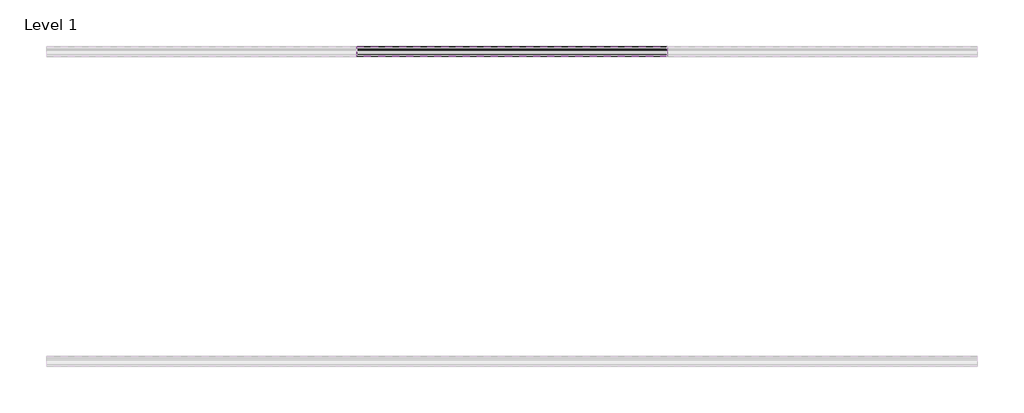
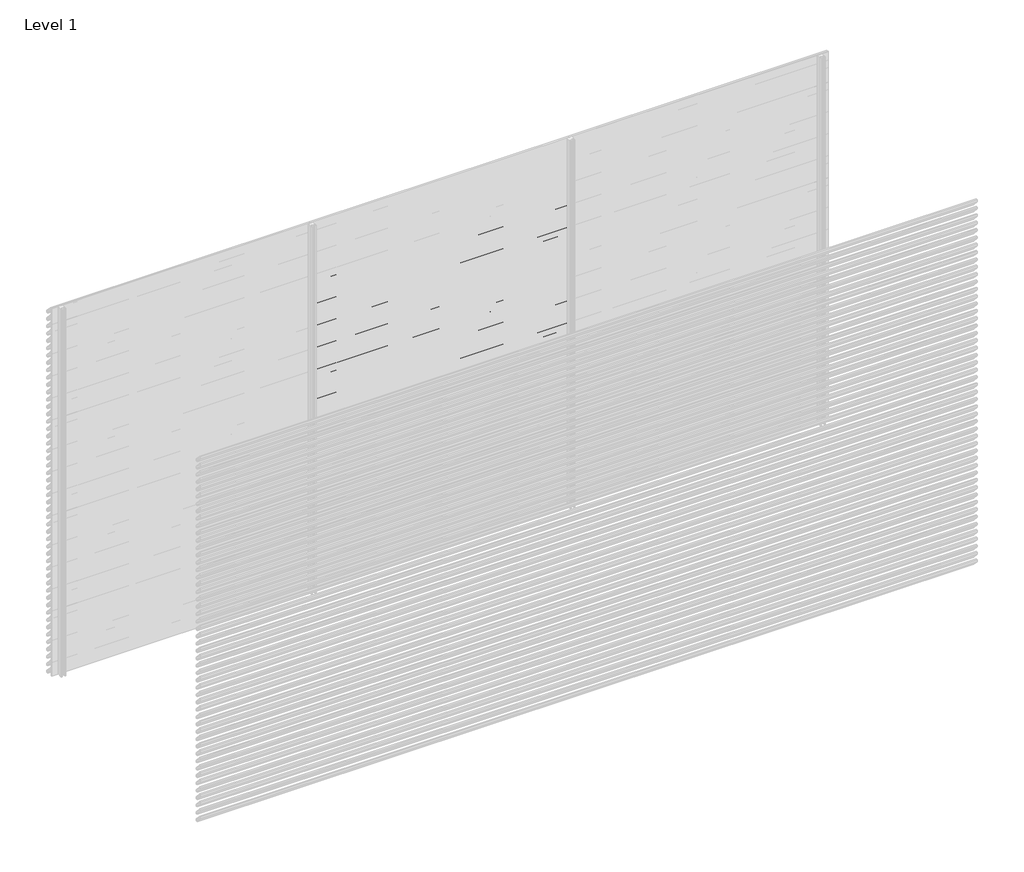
# One storey, part 116 of 153: 33 proxies.
"""IFC4 building model written with IfcOpenShell, lengths in millimetres."""

from ifc_helpers import new_model, si_unit, point, frame, frame_2d, origin, place, context, project, spatial, polyline, circle_curve, trimmed, segment, composite_curve, outline, extrude, element, save

model = new_model("IFC4")

# Units and contexts
model_context = context("Model", 3, world=origin())
ifc_project = project(units=[si_unit("LENGTHUNIT", "METRE", prefix="MILLI")], contexts=[model_context])

# Site, building, storey
site = spatial("IfcSite", under=ifc_project)
building = spatial("IfcBuilding", under=site)
storey = spatial("IfcBuildingStorey", under=building, Name="Level 1", Elevation=0.0)

# Proxies
placement = place(None, origin())
element("IfcBuildingElementProxy", 1, Name="Wall Sweeps", at=placement, inside=storey, context=model_context, shape_type="SweptSolid", body=[
    extrude(outline(composite_curve([segment(polyline([(58985.0540136, 2520.0), (58999.874191, 2518.7034025), (59049.0540136, 2465.0102749), (59049.0540136, 2453.6108187)]), True, "CONTINUOUS"), segment(trimmed(circle_curve(frame_2d((59045.7883652, 2453.897153)), 3.2781774), [point((59049.0540136, 2453.6108187))], [point((59046.4639442, 2450.6893438))], False, "CARTESIAN"), True, "CONTINUOUS"), segment(polyline([(59046.4639442, 2450.6893438), (59034.1895723, 2451.6282758), (58985.0540136, 2505.2730773), (58985.0540136, 2520.0)]), True, "CONTINUOUS")], self_intersect=False), holes=[composite_curve([segment(polyline([(58999.1621773, 2517.2599659), (58986.5540136, 2518.3630372), (58986.5540136, 2505.856213), (59034.8952036, 2453.0786805), (59046.3312542, 2452.2038762)]), True, "CONTINUOUS"), segment(trimmed(circle_curve(frame_2d((59045.7883652, 2453.897153)), 1.7781774), [point((59046.3312542, 2452.2038762))], [point((59047.5540136, 2453.6864389))], True, "CARTESIAN"), True, "CONTINUOUS"), segment(polyline([(59047.5540136, 2453.6864389), (59047.5540136, 2464.4271392), (58999.1621773, 2517.2599659)]), True, "CONTINUOUS")], self_intersect=False)]), frame((46966.6208098, 0.0, 0.0), z_axis=(1.0, 0.0, 0.0), x_axis=(0.0, 1.0, 0.0)), (0.0, 0.0, 1.0), 1999.9999998),
])
element("IfcBuildingElementProxy", 2, Name="Wall Sweeps", at=placement, inside=storey, context=model_context, shape_type="SweptSolid", body=[
    extrude(outline(composite_curve([segment(polyline([(58985.0540136, 2460.0), (58999.874191, 2458.7034025), (59049.0540136, 2405.0102749), (59049.0540136, 2393.6108187)]), True, "CONTINUOUS"), segment(trimmed(circle_curve(frame_2d((59045.7883652, 2393.897153)), 3.2781774), [point((59049.0540136, 2393.6108187))], [point((59046.4639442, 2390.6893438))], False, "CARTESIAN"), True, "CONTINUOUS"), segment(polyline([(59046.4639442, 2390.6893438), (59034.1895723, 2391.6282758), (58985.0540136, 2445.2730773), (58985.0540136, 2460.0)]), True, "CONTINUOUS")], self_intersect=False), holes=[composite_curve([segment(polyline([(58999.1621773, 2457.2599659), (58986.5540136, 2458.3630372), (58986.5540136, 2445.856213), (59034.8952036, 2393.0786805), (59046.3312542, 2392.2038762)]), True, "CONTINUOUS"), segment(trimmed(circle_curve(frame_2d((59045.7883652, 2393.897153)), 1.7781774), [point((59046.3312542, 2392.2038762))], [point((59047.5540136, 2393.6864389))], True, "CARTESIAN"), True, "CONTINUOUS"), segment(polyline([(59047.5540136, 2393.6864389), (59047.5540136, 2404.4271392), (58999.1621773, 2457.2599659)]), True, "CONTINUOUS")], self_intersect=False)]), frame((46966.6208098, 0.0, 0.0), z_axis=(1.0, 0.0, 0.0), x_axis=(0.0, 1.0, 0.0)), (0.0, 0.0, 1.0), 1999.9999998),
])
element("IfcBuildingElementProxy", 3, Name="Wall Sweeps", at=placement, inside=storey, context=model_context, shape_type="SweptSolid", body=[
    extrude(outline(composite_curve([segment(polyline([(58985.0540136, 2400.0), (58999.874191, 2398.7034025), (59049.0540136, 2345.0102749), (59049.0540136, 2333.6108187)]), True, "CONTINUOUS"), segment(trimmed(circle_curve(frame_2d((59045.7883652, 2333.897153)), 3.2781774), [point((59049.0540136, 2333.6108187))], [point((59046.4639442, 2330.6893438))], False, "CARTESIAN"), True, "CONTINUOUS"), segment(polyline([(59046.4639442, 2330.6893438), (59034.1895723, 2331.6282758), (58985.0540136, 2385.2730773), (58985.0540136, 2400.0)]), True, "CONTINUOUS")], self_intersect=False), holes=[composite_curve([segment(polyline([(58999.1621773, 2397.2599659), (58986.5540136, 2398.3630372), (58986.5540136, 2385.856213), (59034.8952036, 2333.0786805), (59046.3312542, 2332.2038762)]), True, "CONTINUOUS"), segment(trimmed(circle_curve(frame_2d((59045.7883652, 2333.897153)), 1.7781774), [point((59046.3312542, 2332.2038762))], [point((59047.5540136, 2333.6864389))], True, "CARTESIAN"), True, "CONTINUOUS"), segment(polyline([(59047.5540136, 2333.6864389), (59047.5540136, 2344.4271392), (58999.1621773, 2397.2599659)]), True, "CONTINUOUS")], self_intersect=False)]), frame((46966.6208098, 0.0, 0.0), z_axis=(1.0, 0.0, 0.0), x_axis=(0.0, 1.0, 0.0)), (0.0, 0.0, 1.0), 1999.9999998),
])
element("IfcBuildingElementProxy", 4, Name="Wall Sweeps", at=placement, inside=storey, context=model_context, shape_type="SweptSolid", body=[
    extrude(outline(composite_curve([segment(polyline([(58985.0540136, 2340.0), (58999.874191, 2338.7034025), (59049.0540136, 2285.0102749), (59049.0540136, 2273.6108187)]), True, "CONTINUOUS"), segment(trimmed(circle_curve(frame_2d((59045.7883652, 2273.897153)), 3.2781774), [point((59049.0540136, 2273.6108187))], [point((59046.4639442, 2270.6893438))], False, "CARTESIAN"), True, "CONTINUOUS"), segment(polyline([(59046.4639442, 2270.6893438), (59034.1895723, 2271.6282758), (58985.0540136, 2325.2730773), (58985.0540136, 2340.0)]), True, "CONTINUOUS")], self_intersect=False), holes=[composite_curve([segment(polyline([(58999.1621773, 2337.2599659), (58986.5540136, 2338.3630372), (58986.5540136, 2325.856213), (59034.8952036, 2273.0786805), (59046.3312542, 2272.2038762)]), True, "CONTINUOUS"), segment(trimmed(circle_curve(frame_2d((59045.7883652, 2273.897153)), 1.7781774), [point((59046.3312542, 2272.2038762))], [point((59047.5540136, 2273.6864389))], True, "CARTESIAN"), True, "CONTINUOUS"), segment(polyline([(59047.5540136, 2273.6864389), (59047.5540136, 2284.4271392), (58999.1621773, 2337.2599659)]), True, "CONTINUOUS")], self_intersect=False)]), frame((46966.6208098, 0.0, 0.0), z_axis=(1.0, 0.0, 0.0), x_axis=(0.0, 1.0, 0.0)), (0.0, 0.0, 1.0), 1999.9999998),
])
element("IfcBuildingElementProxy", 5, Name="Wall Sweeps", at=placement, inside=storey, context=model_context, shape_type="SweptSolid", body=[
    extrude(outline(composite_curve([segment(polyline([(58985.0540136, 2280.0), (58999.874191, 2278.7034025), (59049.0540136, 2225.0102749), (59049.0540136, 2213.6108187)]), True, "CONTINUOUS"), segment(trimmed(circle_curve(frame_2d((59045.7883652, 2213.897153)), 3.2781774), [point((59049.0540136, 2213.6108187))], [point((59046.4639442, 2210.6893438))], False, "CARTESIAN"), True, "CONTINUOUS"), segment(polyline([(59046.4639442, 2210.6893438), (59034.1895723, 2211.6282758), (58985.0540136, 2265.2730773), (58985.0540136, 2280.0)]), True, "CONTINUOUS")], self_intersect=False), holes=[composite_curve([segment(polyline([(58999.1621773, 2277.2599659), (58986.5540136, 2278.3630372), (58986.5540136, 2265.856213), (59034.8952036, 2213.0786805), (59046.3312542, 2212.2038762)]), True, "CONTINUOUS"), segment(trimmed(circle_curve(frame_2d((59045.7883652, 2213.897153)), 1.7781774), [point((59046.3312542, 2212.2038762))], [point((59047.5540136, 2213.6864389))], True, "CARTESIAN"), True, "CONTINUOUS"), segment(polyline([(59047.5540136, 2213.6864389), (59047.5540136, 2224.4271392), (58999.1621773, 2277.2599659)]), True, "CONTINUOUS")], self_intersect=False)]), frame((46966.6208098, 0.0, 0.0), z_axis=(1.0, 0.0, 0.0), x_axis=(0.0, 1.0, 0.0)), (0.0, 0.0, 1.0), 1999.9999998),
])
element("IfcBuildingElementProxy", 6, Name="Wall Sweeps", at=placement, inside=storey, context=model_context, shape_type="SweptSolid", body=[
    extrude(outline(composite_curve([segment(polyline([(58985.0540136, 2220.0), (58999.874191, 2218.7034025), (59049.0540136, 2165.0102749), (59049.0540136, 2153.6108187)]), True, "CONTINUOUS"), segment(trimmed(circle_curve(frame_2d((59045.7883652, 2153.897153)), 3.2781774), [point((59049.0540136, 2153.6108187))], [point((59046.4639442, 2150.6893438))], False, "CARTESIAN"), True, "CONTINUOUS"), segment(polyline([(59046.4639442, 2150.6893438), (59034.1895723, 2151.6282758), (58985.0540136, 2205.2730773), (58985.0540136, 2220.0)]), True, "CONTINUOUS")], self_intersect=False), holes=[composite_curve([segment(polyline([(58999.1621773, 2217.2599659), (58986.5540136, 2218.3630372), (58986.5540136, 2205.856213), (59034.8952036, 2153.0786805), (59046.3312542, 2152.2038762)]), True, "CONTINUOUS"), segment(trimmed(circle_curve(frame_2d((59045.7883652, 2153.897153)), 1.7781774), [point((59046.3312542, 2152.2038762))], [point((59047.5540136, 2153.6864389))], True, "CARTESIAN"), True, "CONTINUOUS"), segment(polyline([(59047.5540136, 2153.6864389), (59047.5540136, 2164.4271392), (58999.1621773, 2217.2599659)]), True, "CONTINUOUS")], self_intersect=False)]), frame((46966.6208098, 0.0, 0.0), z_axis=(1.0, 0.0, 0.0), x_axis=(0.0, 1.0, 0.0)), (0.0, 0.0, 1.0), 1999.9999998),
])
element("IfcBuildingElementProxy", 7, Name="Wall Sweeps", at=placement, inside=storey, context=model_context, shape_type="SweptSolid", body=[
    extrude(outline(composite_curve([segment(polyline([(58985.0540136, 2160.0), (58999.874191, 2158.7034025), (59049.0540136, 2105.0102749), (59049.0540136, 2093.6108187)]), True, "CONTINUOUS"), segment(trimmed(circle_curve(frame_2d((59045.7883652, 2093.897153)), 3.2781774), [point((59049.0540136, 2093.6108187))], [point((59046.4639442, 2090.6893438))], False, "CARTESIAN"), True, "CONTINUOUS"), segment(polyline([(59046.4639442, 2090.6893438), (59034.1895723, 2091.6282758), (58985.0540136, 2145.2730773), (58985.0540136, 2160.0)]), True, "CONTINUOUS")], self_intersect=False), holes=[composite_curve([segment(polyline([(58999.1621773, 2157.2599659), (58986.5540136, 2158.3630372), (58986.5540136, 2145.856213), (59034.8952036, 2093.0786805), (59046.3312542, 2092.2038762)]), True, "CONTINUOUS"), segment(trimmed(circle_curve(frame_2d((59045.7883652, 2093.897153)), 1.7781774), [point((59046.3312542, 2092.2038762))], [point((59047.5540136, 2093.6864389))], True, "CARTESIAN"), True, "CONTINUOUS"), segment(polyline([(59047.5540136, 2093.6864389), (59047.5540136, 2104.4271392), (58999.1621773, 2157.2599659)]), True, "CONTINUOUS")], self_intersect=False)]), frame((46966.6208098, 0.0, 0.0), z_axis=(1.0, 0.0, 0.0), x_axis=(0.0, 1.0, 0.0)), (0.0, 0.0, 1.0), 1999.9999998),
])
element("IfcBuildingElementProxy", 8, Name="Wall Sweeps", at=placement, inside=storey, context=model_context, shape_type="SweptSolid", body=[
    extrude(outline(composite_curve([segment(polyline([(58985.0540136, 2100.0), (58999.874191, 2098.7034025), (59049.0540136, 2045.0102749), (59049.0540136, 2033.6108187)]), True, "CONTINUOUS"), segment(trimmed(circle_curve(frame_2d((59045.7883652, 2033.897153)), 3.2781774), [point((59049.0540136, 2033.6108187))], [point((59046.4639442, 2030.6893438))], False, "CARTESIAN"), True, "CONTINUOUS"), segment(polyline([(59046.4639442, 2030.6893438), (59034.1895723, 2031.6282758), (58985.0540136, 2085.2730773), (58985.0540136, 2100.0)]), True, "CONTINUOUS")], self_intersect=False), holes=[composite_curve([segment(polyline([(58999.1621773, 2097.2599659), (58986.5540136, 2098.3630372), (58986.5540136, 2085.856213), (59034.8952036, 2033.0786805), (59046.3312542, 2032.2038762)]), True, "CONTINUOUS"), segment(trimmed(circle_curve(frame_2d((59045.7883652, 2033.897153)), 1.7781774), [point((59046.3312542, 2032.2038762))], [point((59047.5540136, 2033.6864389))], True, "CARTESIAN"), True, "CONTINUOUS"), segment(polyline([(59047.5540136, 2033.6864389), (59047.5540136, 2044.4271392), (58999.1621773, 2097.2599659)]), True, "CONTINUOUS")], self_intersect=False)]), frame((46966.6208098, 0.0, 0.0), z_axis=(1.0, 0.0, 0.0), x_axis=(0.0, 1.0, 0.0)), (0.0, 0.0, 1.0), 1999.9999998),
])
element("IfcBuildingElementProxy", 9, Name="Wall Sweeps", at=placement, inside=storey, context=model_context, shape_type="SweptSolid", body=[
    extrude(outline(composite_curve([segment(polyline([(58985.0540136, 2040.0), (58999.874191, 2038.7034025), (59049.0540136, 1985.0102749), (59049.0540136, 1973.6108187)]), True, "CONTINUOUS"), segment(trimmed(circle_curve(frame_2d((59045.7883652, 1973.897153)), 3.2781774), [point((59049.0540136, 1973.6108187))], [point((59046.4639442, 1970.6893438))], False, "CARTESIAN"), True, "CONTINUOUS"), segment(polyline([(59046.4639442, 1970.6893438), (59034.1895723, 1971.6282758), (58985.0540136, 2025.2730773), (58985.0540136, 2040.0)]), True, "CONTINUOUS")], self_intersect=False), holes=[composite_curve([segment(polyline([(58999.1621773, 2037.2599659), (58986.5540136, 2038.3630372), (58986.5540136, 2025.856213), (59034.8952036, 1973.0786805), (59046.3312542, 1972.2038762)]), True, "CONTINUOUS"), segment(trimmed(circle_curve(frame_2d((59045.7883652, 1973.897153)), 1.7781774), [point((59046.3312542, 1972.2038762))], [point((59047.5540136, 1973.6864389))], True, "CARTESIAN"), True, "CONTINUOUS"), segment(polyline([(59047.5540136, 1973.6864389), (59047.5540136, 1984.4271392), (58999.1621773, 2037.2599659)]), True, "CONTINUOUS")], self_intersect=False)]), frame((46966.6208098, 0.0, 0.0), z_axis=(1.0, 0.0, 0.0), x_axis=(0.0, 1.0, 0.0)), (0.0, 0.0, 1.0), 1999.9999998),
])
element("IfcBuildingElementProxy", 10, Name="Wall Sweeps", at=placement, inside=storey, context=model_context, shape_type="SweptSolid", body=[
    extrude(outline(composite_curve([segment(polyline([(58985.0540136, 1980.0), (58999.874191, 1978.7034025), (59049.0540136, 1925.0102749), (59049.0540136, 1913.6108187)]), True, "CONTINUOUS"), segment(trimmed(circle_curve(frame_2d((59045.7883652, 1913.897153)), 3.2781774), [point((59049.0540136, 1913.6108187))], [point((59046.4639442, 1910.6893438))], False, "CARTESIAN"), True, "CONTINUOUS"), segment(polyline([(59046.4639442, 1910.6893438), (59034.1895723, 1911.6282758), (58985.0540136, 1965.2730773), (58985.0540136, 1980.0)]), True, "CONTINUOUS")], self_intersect=False), holes=[composite_curve([segment(polyline([(58999.1621773, 1977.2599659), (58986.5540136, 1978.3630372), (58986.5540136, 1965.856213), (59034.8952036, 1913.0786805), (59046.3312542, 1912.2038762)]), True, "CONTINUOUS"), segment(trimmed(circle_curve(frame_2d((59045.7883652, 1913.897153)), 1.7781774), [point((59046.3312542, 1912.2038762))], [point((59047.5540136, 1913.6864389))], True, "CARTESIAN"), True, "CONTINUOUS"), segment(polyline([(59047.5540136, 1913.6864389), (59047.5540136, 1924.4271392), (58999.1621773, 1977.2599659)]), True, "CONTINUOUS")], self_intersect=False)]), frame((46966.6208098, 0.0, 0.0), z_axis=(1.0, 0.0, 0.0), x_axis=(0.0, 1.0, 0.0)), (0.0, 0.0, 1.0), 1999.9999998),
])
element("IfcBuildingElementProxy", 11, Name="Wall Sweeps", at=placement, inside=storey, context=model_context, shape_type="SweptSolid", body=[
    extrude(outline(composite_curve([segment(polyline([(58985.0540136, 1920.0), (58999.874191, 1918.7034025), (59049.0540136, 1865.0102749), (59049.0540136, 1853.6108187)]), True, "CONTINUOUS"), segment(trimmed(circle_curve(frame_2d((59045.7883652, 1853.897153)), 3.2781774), [point((59049.0540136, 1853.6108187))], [point((59046.4639442, 1850.6893438))], False, "CARTESIAN"), True, "CONTINUOUS"), segment(polyline([(59046.4639442, 1850.6893438), (59034.1895723, 1851.6282758), (58985.0540136, 1905.2730773), (58985.0540136, 1920.0)]), True, "CONTINUOUS")], self_intersect=False), holes=[composite_curve([segment(polyline([(58999.1621773, 1917.2599659), (58986.5540136, 1918.3630372), (58986.5540136, 1905.856213), (59034.8952036, 1853.0786805), (59046.3312542, 1852.2038762)]), True, "CONTINUOUS"), segment(trimmed(circle_curve(frame_2d((59045.7883652, 1853.897153)), 1.7781774), [point((59046.3312542, 1852.2038762))], [point((59047.5540136, 1853.6864389))], True, "CARTESIAN"), True, "CONTINUOUS"), segment(polyline([(59047.5540136, 1853.6864389), (59047.5540136, 1864.4271392), (58999.1621773, 1917.2599659)]), True, "CONTINUOUS")], self_intersect=False)]), frame((46966.6208098, 0.0, 0.0), z_axis=(1.0, 0.0, 0.0), x_axis=(0.0, 1.0, 0.0)), (0.0, 0.0, 1.0), 1999.9999998),
])
element("IfcBuildingElementProxy", 12, Name="Wall Sweeps", at=placement, inside=storey, context=model_context, shape_type="SweptSolid", body=[
    extrude(outline(composite_curve([segment(polyline([(58985.0540136, 1860.0), (58999.874191, 1858.7034025), (59049.0540136, 1805.0102749), (59049.0540136, 1793.6108187)]), True, "CONTINUOUS"), segment(trimmed(circle_curve(frame_2d((59045.7883652, 1793.897153)), 3.2781774), [point((59049.0540136, 1793.6108187))], [point((59046.4639442, 1790.6893438))], False, "CARTESIAN"), True, "CONTINUOUS"), segment(polyline([(59046.4639442, 1790.6893438), (59034.1895723, 1791.6282758), (58985.0540136, 1845.2730773), (58985.0540136, 1860.0)]), True, "CONTINUOUS")], self_intersect=False), holes=[composite_curve([segment(polyline([(58999.1621773, 1857.2599659), (58986.5540136, 1858.3630372), (58986.5540136, 1845.856213), (59034.8952036, 1793.0786805), (59046.3312542, 1792.2038762)]), True, "CONTINUOUS"), segment(trimmed(circle_curve(frame_2d((59045.7883652, 1793.897153)), 1.7781774), [point((59046.3312542, 1792.2038762))], [point((59047.5540136, 1793.6864389))], True, "CARTESIAN"), True, "CONTINUOUS"), segment(polyline([(59047.5540136, 1793.6864389), (59047.5540136, 1804.4271392), (58999.1621773, 1857.2599659)]), True, "CONTINUOUS")], self_intersect=False)]), frame((46966.6208098, 0.0, 0.0), z_axis=(1.0, 0.0, 0.0), x_axis=(0.0, 1.0, 0.0)), (0.0, 0.0, 1.0), 1999.9999998),
])
element("IfcBuildingElementProxy", 13, Name="Wall Sweeps", at=placement, inside=storey, context=model_context, shape_type="SweptSolid", body=[
    extrude(outline(composite_curve([segment(polyline([(58985.0540136, 1800.0), (58999.874191, 1798.7034025), (59049.0540136, 1745.0102749), (59049.0540136, 1733.6108187)]), True, "CONTINUOUS"), segment(trimmed(circle_curve(frame_2d((59045.7883652, 1733.897153)), 3.2781774), [point((59049.0540136, 1733.6108187))], [point((59046.4639442, 1730.6893438))], False, "CARTESIAN"), True, "CONTINUOUS"), segment(polyline([(59046.4639442, 1730.6893438), (59034.1895723, 1731.6282758), (58985.0540136, 1785.2730773), (58985.0540136, 1800.0)]), True, "CONTINUOUS")], self_intersect=False), holes=[composite_curve([segment(polyline([(58999.1621773, 1797.2599659), (58986.5540136, 1798.3630372), (58986.5540136, 1785.856213), (59034.8952036, 1733.0786805), (59046.3312542, 1732.2038762)]), True, "CONTINUOUS"), segment(trimmed(circle_curve(frame_2d((59045.7883652, 1733.897153)), 1.7781774), [point((59046.3312542, 1732.2038762))], [point((59047.5540136, 1733.6864389))], True, "CARTESIAN"), True, "CONTINUOUS"), segment(polyline([(59047.5540136, 1733.6864389), (59047.5540136, 1744.4271392), (58999.1621773, 1797.2599659)]), True, "CONTINUOUS")], self_intersect=False)]), frame((46966.6208098, 0.0, 0.0), z_axis=(1.0, 0.0, 0.0), x_axis=(0.0, 1.0, 0.0)), (0.0, 0.0, 1.0), 1999.9999998),
])
element("IfcBuildingElementProxy", 14, Name="Wall Sweeps", at=placement, inside=storey, context=model_context, shape_type="SweptSolid", body=[
    extrude(outline(composite_curve([segment(polyline([(58985.0540136, 1740.0), (58999.874191, 1738.7034025), (59049.0540136, 1685.0102749), (59049.0540136, 1673.6108187)]), True, "CONTINUOUS"), segment(trimmed(circle_curve(frame_2d((59045.7883652, 1673.897153)), 3.2781774), [point((59049.0540136, 1673.6108187))], [point((59046.4639442, 1670.6893438))], False, "CARTESIAN"), True, "CONTINUOUS"), segment(polyline([(59046.4639442, 1670.6893438), (59034.1895723, 1671.6282758), (58985.0540136, 1725.2730773), (58985.0540136, 1740.0)]), True, "CONTINUOUS")], self_intersect=False), holes=[composite_curve([segment(polyline([(58999.1621773, 1737.2599659), (58986.5540136, 1738.3630372), (58986.5540136, 1725.856213), (59034.8952036, 1673.0786805), (59046.3312542, 1672.2038762)]), True, "CONTINUOUS"), segment(trimmed(circle_curve(frame_2d((59045.7883652, 1673.897153)), 1.7781774), [point((59046.3312542, 1672.2038762))], [point((59047.5540136, 1673.6864389))], True, "CARTESIAN"), True, "CONTINUOUS"), segment(polyline([(59047.5540136, 1673.6864389), (59047.5540136, 1684.4271392), (58999.1621773, 1737.2599659)]), True, "CONTINUOUS")], self_intersect=False)]), frame((46966.6208098, 0.0, 0.0), z_axis=(1.0, 0.0, 0.0), x_axis=(0.0, 1.0, 0.0)), (0.0, 0.0, 1.0), 1999.9999998),
])
element("IfcBuildingElementProxy", 15, Name="Wall Sweeps", at=placement, inside=storey, context=model_context, shape_type="SweptSolid", body=[
    extrude(outline(composite_curve([segment(polyline([(58985.0540136, 1680.0), (58999.874191, 1678.7034025), (59049.0540136, 1625.0102749), (59049.0540136, 1613.6108187)]), True, "CONTINUOUS"), segment(trimmed(circle_curve(frame_2d((59045.7883652, 1613.897153)), 3.2781774), [point((59049.0540136, 1613.6108187))], [point((59046.4639442, 1610.6893438))], False, "CARTESIAN"), True, "CONTINUOUS"), segment(polyline([(59046.4639442, 1610.6893438), (59034.1895723, 1611.6282758), (58985.0540136, 1665.2730773), (58985.0540136, 1680.0)]), True, "CONTINUOUS")], self_intersect=False), holes=[composite_curve([segment(polyline([(58999.1621773, 1677.2599659), (58986.5540136, 1678.3630372), (58986.5540136, 1665.856213), (59034.8952036, 1613.0786805), (59046.3312542, 1612.2038762)]), True, "CONTINUOUS"), segment(trimmed(circle_curve(frame_2d((59045.7883652, 1613.897153)), 1.7781774), [point((59046.3312542, 1612.2038762))], [point((59047.5540136, 1613.6864389))], True, "CARTESIAN"), True, "CONTINUOUS"), segment(polyline([(59047.5540136, 1613.6864389), (59047.5540136, 1624.4271392), (58999.1621773, 1677.2599659)]), True, "CONTINUOUS")], self_intersect=False)]), frame((46966.6208098, 0.0, 0.0), z_axis=(1.0, 0.0, 0.0), x_axis=(0.0, 1.0, 0.0)), (0.0, 0.0, 1.0), 1999.9999998),
])
element("IfcBuildingElementProxy", 16, Name="Wall Sweeps", at=placement, inside=storey, context=model_context, shape_type="SweptSolid", body=[
    extrude(outline(composite_curve([segment(polyline([(58985.0540136, 1620.0), (58999.874191, 1618.7034025), (59049.0540136, 1565.0102749), (59049.0540136, 1553.6108187)]), True, "CONTINUOUS"), segment(trimmed(circle_curve(frame_2d((59045.7883652, 1553.897153)), 3.2781774), [point((59049.0540136, 1553.6108187))], [point((59046.4639442, 1550.6893438))], False, "CARTESIAN"), True, "CONTINUOUS"), segment(polyline([(59046.4639442, 1550.6893438), (59034.1895723, 1551.6282758), (58985.0540136, 1605.2730773), (58985.0540136, 1620.0)]), True, "CONTINUOUS")], self_intersect=False), holes=[composite_curve([segment(polyline([(58999.1621773, 1617.2599659), (58986.5540136, 1618.3630372), (58986.5540136, 1605.856213), (59034.8952036, 1553.0786805), (59046.3312542, 1552.2038762)]), True, "CONTINUOUS"), segment(trimmed(circle_curve(frame_2d((59045.7883652, 1553.897153)), 1.7781774), [point((59046.3312542, 1552.2038762))], [point((59047.5540136, 1553.6864389))], True, "CARTESIAN"), True, "CONTINUOUS"), segment(polyline([(59047.5540136, 1553.6864389), (59047.5540136, 1564.4271392), (58999.1621773, 1617.2599659)]), True, "CONTINUOUS")], self_intersect=False)]), frame((46966.6208098, 0.0, 0.0), z_axis=(1.0, 0.0, 0.0), x_axis=(0.0, 1.0, 0.0)), (0.0, 0.0, 1.0), 1999.9999998),
])
element("IfcBuildingElementProxy", 17, Name="Wall Sweeps", at=placement, inside=storey, context=model_context, shape_type="SweptSolid", body=[
    extrude(outline(composite_curve([segment(polyline([(58985.0540136, 1560.0), (58999.874191, 1558.7034025), (59049.0540136, 1505.0102749), (59049.0540136, 1493.6108187)]), True, "CONTINUOUS"), segment(trimmed(circle_curve(frame_2d((59045.7883652, 1493.897153)), 3.2781774), [point((59049.0540136, 1493.6108187))], [point((59046.4639442, 1490.6893438))], False, "CARTESIAN"), True, "CONTINUOUS"), segment(polyline([(59046.4639442, 1490.6893438), (59034.1895723, 1491.6282758), (58985.0540136, 1545.2730773), (58985.0540136, 1560.0)]), True, "CONTINUOUS")], self_intersect=False), holes=[composite_curve([segment(polyline([(58999.1621773, 1557.2599659), (58986.5540136, 1558.3630372), (58986.5540136, 1545.856213), (59034.8952036, 1493.0786805), (59046.3312542, 1492.2038762)]), True, "CONTINUOUS"), segment(trimmed(circle_curve(frame_2d((59045.7883652, 1493.897153)), 1.7781774), [point((59046.3312542, 1492.2038762))], [point((59047.5540136, 1493.6864389))], True, "CARTESIAN"), True, "CONTINUOUS"), segment(polyline([(59047.5540136, 1493.6864389), (59047.5540136, 1504.4271392), (58999.1621773, 1557.2599659)]), True, "CONTINUOUS")], self_intersect=False)]), frame((46966.6208098, 0.0, 0.0), z_axis=(1.0, 0.0, 0.0), x_axis=(0.0, 1.0, 0.0)), (0.0, 0.0, 1.0), 1999.9999998),
])
element("IfcBuildingElementProxy", 18, Name="Wall Sweeps", at=placement, inside=storey, context=model_context, shape_type="SweptSolid", body=[
    extrude(outline(composite_curve([segment(polyline([(58985.0540136, 1500.0), (58999.874191, 1498.7034025), (59049.0540136, 1445.0102749), (59049.0540136, 1433.6108187)]), True, "CONTINUOUS"), segment(trimmed(circle_curve(frame_2d((59045.7883652, 1433.897153)), 3.2781774), [point((59049.0540136, 1433.6108187))], [point((59046.4639442, 1430.6893438))], False, "CARTESIAN"), True, "CONTINUOUS"), segment(polyline([(59046.4639442, 1430.6893438), (59034.1895723, 1431.6282758), (58985.0540136, 1485.2730773), (58985.0540136, 1500.0)]), True, "CONTINUOUS")], self_intersect=False), holes=[composite_curve([segment(polyline([(58999.1621773, 1497.2599659), (58986.5540136, 1498.3630372), (58986.5540136, 1485.856213), (59034.8952036, 1433.0786805), (59046.3312542, 1432.2038762)]), True, "CONTINUOUS"), segment(trimmed(circle_curve(frame_2d((59045.7883652, 1433.897153)), 1.7781774), [point((59046.3312542, 1432.2038762))], [point((59047.5540136, 1433.6864389))], True, "CARTESIAN"), True, "CONTINUOUS"), segment(polyline([(59047.5540136, 1433.6864389), (59047.5540136, 1444.4271392), (58999.1621773, 1497.2599659)]), True, "CONTINUOUS")], self_intersect=False)]), frame((46966.6208098, 0.0, 0.0), z_axis=(1.0, 0.0, 0.0), x_axis=(0.0, 1.0, 0.0)), (0.0, 0.0, 1.0), 1999.9999998),
])
element("IfcBuildingElementProxy", 19, Name="Wall Sweeps", at=placement, inside=storey, context=model_context, shape_type="SweptSolid", body=[
    extrude(outline(composite_curve([segment(polyline([(58985.0540136, 1440.0), (58999.874191, 1438.7034025), (59049.0540136, 1385.0102749), (59049.0540136, 1373.6108187)]), True, "CONTINUOUS"), segment(trimmed(circle_curve(frame_2d((59045.7883652, 1373.897153)), 3.2781774), [point((59049.0540136, 1373.6108187))], [point((59046.4639442, 1370.6893438))], False, "CARTESIAN"), True, "CONTINUOUS"), segment(polyline([(59046.4639442, 1370.6893438), (59034.1895723, 1371.6282758), (58985.0540136, 1425.2730773), (58985.0540136, 1440.0)]), True, "CONTINUOUS")], self_intersect=False), holes=[composite_curve([segment(polyline([(58999.1621773, 1437.2599659), (58986.5540136, 1438.3630372), (58986.5540136, 1425.856213), (59034.8952036, 1373.0786805), (59046.3312542, 1372.2038762)]), True, "CONTINUOUS"), segment(trimmed(circle_curve(frame_2d((59045.7883652, 1373.897153)), 1.7781774), [point((59046.3312542, 1372.2038762))], [point((59047.5540136, 1373.6864389))], True, "CARTESIAN"), True, "CONTINUOUS"), segment(polyline([(59047.5540136, 1373.6864389), (59047.5540136, 1384.4271392), (58999.1621773, 1437.2599659)]), True, "CONTINUOUS")], self_intersect=False)]), frame((46966.6208098, 0.0, 0.0), z_axis=(1.0, 0.0, 0.0), x_axis=(0.0, 1.0, 0.0)), (0.0, 0.0, 1.0), 1999.9999998),
])
element("IfcBuildingElementProxy", 20, Name="Wall Sweeps", at=placement, inside=storey, context=model_context, shape_type="SweptSolid", body=[
    extrude(outline(composite_curve([segment(polyline([(58985.0540136, 1380.0), (58999.874191, 1378.7034025), (59049.0540136, 1325.0102749), (59049.0540136, 1313.6108187)]), True, "CONTINUOUS"), segment(trimmed(circle_curve(frame_2d((59045.7883652, 1313.897153)), 3.2781774), [point((59049.0540136, 1313.6108187))], [point((59046.4639442, 1310.6893438))], False, "CARTESIAN"), True, "CONTINUOUS"), segment(polyline([(59046.4639442, 1310.6893438), (59034.1895723, 1311.6282758), (58985.0540136, 1365.2730773), (58985.0540136, 1380.0)]), True, "CONTINUOUS")], self_intersect=False), holes=[composite_curve([segment(polyline([(58999.1621773, 1377.2599659), (58986.5540136, 1378.3630372), (58986.5540136, 1365.856213), (59034.8952036, 1313.0786805), (59046.3312542, 1312.2038762)]), True, "CONTINUOUS"), segment(trimmed(circle_curve(frame_2d((59045.7883652, 1313.897153)), 1.7781774), [point((59046.3312542, 1312.2038762))], [point((59047.5540136, 1313.6864389))], True, "CARTESIAN"), True, "CONTINUOUS"), segment(polyline([(59047.5540136, 1313.6864389), (59047.5540136, 1324.4271392), (58999.1621773, 1377.2599659)]), True, "CONTINUOUS")], self_intersect=False)]), frame((46966.6208098, 0.0, 0.0), z_axis=(1.0, 0.0, 0.0), x_axis=(0.0, 1.0, 0.0)), (0.0, 0.0, 1.0), 1999.9999998),
])
element("IfcBuildingElementProxy", 21, Name="Wall Sweeps", at=placement, inside=storey, context=model_context, shape_type="SweptSolid", body=[
    extrude(outline(composite_curve([segment(polyline([(58985.0540136, 1320.0), (58999.874191, 1318.7034025), (59049.0540136, 1265.0102749), (59049.0540136, 1253.6108187)]), True, "CONTINUOUS"), segment(trimmed(circle_curve(frame_2d((59045.7883652, 1253.897153)), 3.2781774), [point((59049.0540136, 1253.6108187))], [point((59046.4639442, 1250.6893438))], False, "CARTESIAN"), True, "CONTINUOUS"), segment(polyline([(59046.4639442, 1250.6893438), (59034.1895723, 1251.6282758), (58985.0540136, 1305.2730773), (58985.0540136, 1320.0)]), True, "CONTINUOUS")], self_intersect=False), holes=[composite_curve([segment(polyline([(58999.1621773, 1317.2599659), (58986.5540136, 1318.3630372), (58986.5540136, 1305.856213), (59034.8952036, 1253.0786805), (59046.3312542, 1252.2038762)]), True, "CONTINUOUS"), segment(trimmed(circle_curve(frame_2d((59045.7883652, 1253.897153)), 1.7781774), [point((59046.3312542, 1252.2038762))], [point((59047.5540136, 1253.6864389))], True, "CARTESIAN"), True, "CONTINUOUS"), segment(polyline([(59047.5540136, 1253.6864389), (59047.5540136, 1264.4271392), (58999.1621773, 1317.2599659)]), True, "CONTINUOUS")], self_intersect=False)]), frame((46966.6208098, 0.0, 0.0), z_axis=(1.0, 0.0, 0.0), x_axis=(0.0, 1.0, 0.0)), (0.0, 0.0, 1.0), 1999.9999998),
])
element("IfcBuildingElementProxy", 22, Name="Wall Sweeps", at=placement, inside=storey, context=model_context, shape_type="SweptSolid", body=[
    extrude(outline(composite_curve([segment(polyline([(58985.0540136, 1260.0), (58999.874191, 1258.7034025), (59049.0540136, 1205.0102749), (59049.0540136, 1193.6108187)]), True, "CONTINUOUS"), segment(trimmed(circle_curve(frame_2d((59045.7883652, 1193.897153)), 3.2781774), [point((59049.0540136, 1193.6108187))], [point((59046.4639442, 1190.6893438))], False, "CARTESIAN"), True, "CONTINUOUS"), segment(polyline([(59046.4639442, 1190.6893438), (59034.1895723, 1191.6282758), (58985.0540136, 1245.2730773), (58985.0540136, 1260.0)]), True, "CONTINUOUS")], self_intersect=False), holes=[composite_curve([segment(polyline([(58999.1621773, 1257.2599659), (58986.5540136, 1258.3630372), (58986.5540136, 1245.856213), (59034.8952036, 1193.0786805), (59046.3312542, 1192.2038762)]), True, "CONTINUOUS"), segment(trimmed(circle_curve(frame_2d((59045.7883652, 1193.897153)), 1.7781774), [point((59046.3312542, 1192.2038762))], [point((59047.5540136, 1193.6864389))], True, "CARTESIAN"), True, "CONTINUOUS"), segment(polyline([(59047.5540136, 1193.6864389), (59047.5540136, 1204.4271392), (58999.1621773, 1257.2599659)]), True, "CONTINUOUS")], self_intersect=False)]), frame((46966.6208098, 0.0, 0.0), z_axis=(1.0, 0.0, 0.0), x_axis=(0.0, 1.0, 0.0)), (0.0, 0.0, 1.0), 1999.9999998),
])
element("IfcBuildingElementProxy", 23, Name="Wall Sweeps", at=placement, inside=storey, context=model_context, shape_type="SweptSolid", body=[
    extrude(outline(composite_curve([segment(polyline([(58985.0540136, 1200.0), (58999.874191, 1198.7034025), (59049.0540136, 1145.0102749), (59049.0540136, 1133.6108187)]), True, "CONTINUOUS"), segment(trimmed(circle_curve(frame_2d((59045.7883652, 1133.897153)), 3.2781774), [point((59049.0540136, 1133.6108187))], [point((59046.4639442, 1130.6893438))], False, "CARTESIAN"), True, "CONTINUOUS"), segment(polyline([(59046.4639442, 1130.6893438), (59034.1895723, 1131.6282758), (58985.0540136, 1185.2730773), (58985.0540136, 1200.0)]), True, "CONTINUOUS")], self_intersect=False), holes=[composite_curve([segment(polyline([(58999.1621773, 1197.2599659), (58986.5540136, 1198.3630372), (58986.5540136, 1185.856213), (59034.8952036, 1133.0786805), (59046.3312542, 1132.2038762)]), True, "CONTINUOUS"), segment(trimmed(circle_curve(frame_2d((59045.7883652, 1133.897153)), 1.7781774), [point((59046.3312542, 1132.2038762))], [point((59047.5540136, 1133.6864389))], True, "CARTESIAN"), True, "CONTINUOUS"), segment(polyline([(59047.5540136, 1133.6864389), (59047.5540136, 1144.4271392), (58999.1621773, 1197.2599659)]), True, "CONTINUOUS")], self_intersect=False)]), frame((46966.6208098, 0.0, 0.0), z_axis=(1.0, 0.0, 0.0), x_axis=(0.0, 1.0, 0.0)), (0.0, 0.0, 1.0), 1999.9999998),
])
element("IfcBuildingElementProxy", 24, Name="Wall Sweeps", at=placement, inside=storey, context=model_context, shape_type="SweptSolid", body=[
    extrude(outline(composite_curve([segment(polyline([(58985.0540136, 1140.0), (58999.874191, 1138.7034025), (59049.0540136, 1085.0102749), (59049.0540136, 1073.6108187)]), True, "CONTINUOUS"), segment(trimmed(circle_curve(frame_2d((59045.7883652, 1073.897153)), 3.2781774), [point((59049.0540136, 1073.6108187))], [point((59046.4639442, 1070.6893438))], False, "CARTESIAN"), True, "CONTINUOUS"), segment(polyline([(59046.4639442, 1070.6893438), (59034.1895723, 1071.6282758), (58985.0540136, 1125.2730773), (58985.0540136, 1140.0)]), True, "CONTINUOUS")], self_intersect=False), holes=[composite_curve([segment(polyline([(58999.1621773, 1137.2599659), (58986.5540136, 1138.3630372), (58986.5540136, 1125.856213), (59034.8952036, 1073.0786805), (59046.3312542, 1072.2038762)]), True, "CONTINUOUS"), segment(trimmed(circle_curve(frame_2d((59045.7883652, 1073.897153)), 1.7781774), [point((59046.3312542, 1072.2038762))], [point((59047.5540136, 1073.6864389))], True, "CARTESIAN"), True, "CONTINUOUS"), segment(polyline([(59047.5540136, 1073.6864389), (59047.5540136, 1084.4271392), (58999.1621773, 1137.2599659)]), True, "CONTINUOUS")], self_intersect=False)]), frame((46966.6208098, 0.0, 0.0), z_axis=(1.0, 0.0, 0.0), x_axis=(0.0, 1.0, 0.0)), (0.0, 0.0, 1.0), 1999.9999998),
])
element("IfcBuildingElementProxy", 25, Name="Wall Sweeps", at=placement, inside=storey, context=model_context, shape_type="SweptSolid", body=[
    extrude(outline(composite_curve([segment(polyline([(58985.0540136, 1080.0), (58999.874191, 1078.7034025), (59049.0540136, 1025.0102749), (59049.0540136, 1013.6108187)]), True, "CONTINUOUS"), segment(trimmed(circle_curve(frame_2d((59045.7883652, 1013.897153)), 3.2781774), [point((59049.0540136, 1013.6108187))], [point((59046.4639442, 1010.6893438))], False, "CARTESIAN"), True, "CONTINUOUS"), segment(polyline([(59046.4639442, 1010.6893438), (59034.1895723, 1011.6282758), (58985.0540136, 1065.2730773), (58985.0540136, 1080.0)]), True, "CONTINUOUS")], self_intersect=False), holes=[composite_curve([segment(polyline([(58999.1621773, 1077.2599659), (58986.5540136, 1078.3630372), (58986.5540136, 1065.856213), (59034.8952036, 1013.0786805), (59046.3312542, 1012.2038762)]), True, "CONTINUOUS"), segment(trimmed(circle_curve(frame_2d((59045.7883652, 1013.897153)), 1.7781774), [point((59046.3312542, 1012.2038762))], [point((59047.5540136, 1013.6864389))], True, "CARTESIAN"), True, "CONTINUOUS"), segment(polyline([(59047.5540136, 1013.6864389), (59047.5540136, 1024.4271392), (58999.1621773, 1077.2599659)]), True, "CONTINUOUS")], self_intersect=False)]), frame((46966.6208098, 0.0, 0.0), z_axis=(1.0, 0.0, 0.0), x_axis=(0.0, 1.0, 0.0)), (0.0, 0.0, 1.0), 1999.9999998),
])
element("IfcBuildingElementProxy", 26, Name="Wall Sweeps", at=placement, inside=storey, context=model_context, shape_type="SweptSolid", body=[
    extrude(outline(composite_curve([segment(polyline([(58985.0540136, 1020.0), (58999.874191, 1018.7034025), (59049.0540136, 965.0102749), (59049.0540136, 953.6108187)]), True, "CONTINUOUS"), segment(trimmed(circle_curve(frame_2d((59045.7883652, 953.897153)), 3.2781774), [point((59049.0540136, 953.6108187))], [point((59046.4639442, 950.6893438))], False, "CARTESIAN"), True, "CONTINUOUS"), segment(polyline([(59046.4639442, 950.6893438), (59034.1895723, 951.6282758), (58985.0540136, 1005.2730773), (58985.0540136, 1020.0)]), True, "CONTINUOUS")], self_intersect=False), holes=[composite_curve([segment(polyline([(58999.1621773, 1017.2599659), (58986.5540136, 1018.3630372), (58986.5540136, 1005.856213), (59034.8952036, 953.0786805), (59046.3312542, 952.2038762)]), True, "CONTINUOUS"), segment(trimmed(circle_curve(frame_2d((59045.7883652, 953.897153)), 1.7781774), [point((59046.3312542, 952.2038762))], [point((59047.5540136, 953.6864389))], True, "CARTESIAN"), True, "CONTINUOUS"), segment(polyline([(59047.5540136, 953.6864389), (59047.5540136, 964.4271392), (58999.1621773, 1017.2599659)]), True, "CONTINUOUS")], self_intersect=False)]), frame((46966.6208098, 0.0, 0.0), z_axis=(1.0, 0.0, 0.0), x_axis=(0.0, 1.0, 0.0)), (0.0, 0.0, 1.0), 1999.9999998),
])
element("IfcBuildingElementProxy", 27, Name="Wall Sweeps", at=placement, inside=storey, context=model_context, shape_type="SweptSolid", body=[
    extrude(outline(composite_curve([segment(polyline([(58985.0540136, 960.0), (58999.874191, 958.7034025), (59049.0540136, 905.0102749), (59049.0540136, 893.6108187)]), True, "CONTINUOUS"), segment(trimmed(circle_curve(frame_2d((59045.7883652, 893.897153)), 3.2781774), [point((59049.0540136, 893.6108187))], [point((59046.4639442, 890.6893438))], False, "CARTESIAN"), True, "CONTINUOUS"), segment(polyline([(59046.4639442, 890.6893438), (59034.1895723, 891.6282758), (58985.0540136, 945.2730773), (58985.0540136, 960.0)]), True, "CONTINUOUS")], self_intersect=False), holes=[composite_curve([segment(polyline([(58999.1621773, 957.2599659), (58986.5540136, 958.3630372), (58986.5540136, 945.856213), (59034.8952036, 893.0786805), (59046.3312542, 892.2038762)]), True, "CONTINUOUS"), segment(trimmed(circle_curve(frame_2d((59045.7883652, 893.897153)), 1.7781774), [point((59046.3312542, 892.2038762))], [point((59047.5540136, 893.6864389))], True, "CARTESIAN"), True, "CONTINUOUS"), segment(polyline([(59047.5540136, 893.6864389), (59047.5540136, 904.4271392), (58999.1621773, 957.2599659)]), True, "CONTINUOUS")], self_intersect=False)]), frame((46966.6208098, 0.0, 0.0), z_axis=(1.0, 0.0, 0.0), x_axis=(0.0, 1.0, 0.0)), (0.0, 0.0, 1.0), 1999.9999998),
])
element("IfcBuildingElementProxy", 28, Name="Wall Sweeps", at=placement, inside=storey, context=model_context, shape_type="SweptSolid", body=[
    extrude(outline(composite_curve([segment(polyline([(58985.0540136, 900.0), (58999.874191, 898.7034025), (59049.0540136, 845.0102749), (59049.0540136, 833.6108187)]), True, "CONTINUOUS"), segment(trimmed(circle_curve(frame_2d((59045.7883652, 833.897153)), 3.2781774), [point((59049.0540136, 833.6108187))], [point((59046.4639442, 830.6893438))], False, "CARTESIAN"), True, "CONTINUOUS"), segment(polyline([(59046.4639442, 830.6893438), (59034.1895723, 831.6282758), (58985.0540136, 885.2730773), (58985.0540136, 900.0)]), True, "CONTINUOUS")], self_intersect=False), holes=[composite_curve([segment(polyline([(58999.1621773, 897.2599659), (58986.5540136, 898.3630372), (58986.5540136, 885.856213), (59034.8952036, 833.0786805), (59046.3312542, 832.2038762)]), True, "CONTINUOUS"), segment(trimmed(circle_curve(frame_2d((59045.7883652, 833.897153)), 1.7781774), [point((59046.3312542, 832.2038762))], [point((59047.5540136, 833.6864389))], True, "CARTESIAN"), True, "CONTINUOUS"), segment(polyline([(59047.5540136, 833.6864389), (59047.5540136, 844.4271392), (58999.1621773, 897.2599659)]), True, "CONTINUOUS")], self_intersect=False)]), frame((46966.6208098, 0.0, 0.0), z_axis=(1.0, 0.0, 0.0), x_axis=(0.0, 1.0, 0.0)), (0.0, 0.0, 1.0), 1999.9999998),
])
element("IfcBuildingElementProxy", 29, Name="Wall Sweeps", at=placement, inside=storey, context=model_context, shape_type="SweptSolid", body=[
    extrude(outline(composite_curve([segment(polyline([(58985.0540136, 840.0), (58999.874191, 838.7034025), (59049.0540136, 785.0102749), (59049.0540136, 773.6108187)]), True, "CONTINUOUS"), segment(trimmed(circle_curve(frame_2d((59045.7883652, 773.897153)), 3.2781774), [point((59049.0540136, 773.6108187))], [point((59046.4639442, 770.6893438))], False, "CARTESIAN"), True, "CONTINUOUS"), segment(polyline([(59046.4639442, 770.6893438), (59034.1895723, 771.6282758), (58985.0540136, 825.2730773), (58985.0540136, 840.0)]), True, "CONTINUOUS")], self_intersect=False), holes=[composite_curve([segment(polyline([(58999.1621773, 837.2599659), (58986.5540136, 838.3630372), (58986.5540136, 825.856213), (59034.8952036, 773.0786805), (59046.3312542, 772.2038762)]), True, "CONTINUOUS"), segment(trimmed(circle_curve(frame_2d((59045.7883652, 773.897153)), 1.7781774), [point((59046.3312542, 772.2038762))], [point((59047.5540136, 773.6864389))], True, "CARTESIAN"), True, "CONTINUOUS"), segment(polyline([(59047.5540136, 773.6864389), (59047.5540136, 784.4271392), (58999.1621773, 837.2599659)]), True, "CONTINUOUS")], self_intersect=False)]), frame((46966.6208098, 0.0, 0.0), z_axis=(1.0, 0.0, 0.0), x_axis=(0.0, 1.0, 0.0)), (0.0, 0.0, 1.0), 1999.9999998),
])
element("IfcBuildingElementProxy", 30, Name="Wall Sweeps", at=placement, inside=storey, context=model_context, shape_type="SweptSolid", body=[
    extrude(outline(composite_curve([segment(polyline([(58985.0540136, 780.0), (58999.874191, 778.7034025), (59049.0540136, 725.0102749), (59049.0540136, 713.6108187)]), True, "CONTINUOUS"), segment(trimmed(circle_curve(frame_2d((59045.7883652, 713.897153)), 3.2781774), [point((59049.0540136, 713.6108187))], [point((59046.4639442, 710.6893438))], False, "CARTESIAN"), True, "CONTINUOUS"), segment(polyline([(59046.4639442, 710.6893438), (59034.1895723, 711.6282758), (58985.0540136, 765.2730773), (58985.0540136, 780.0)]), True, "CONTINUOUS")], self_intersect=False), holes=[composite_curve([segment(polyline([(58999.1621773, 777.2599659), (58986.5540136, 778.3630372), (58986.5540136, 765.856213), (59034.8952036, 713.0786805), (59046.3312542, 712.2038762)]), True, "CONTINUOUS"), segment(trimmed(circle_curve(frame_2d((59045.7883652, 713.897153)), 1.7781774), [point((59046.3312542, 712.2038762))], [point((59047.5540136, 713.6864389))], True, "CARTESIAN"), True, "CONTINUOUS"), segment(polyline([(59047.5540136, 713.6864389), (59047.5540136, 724.4271392), (58999.1621773, 777.2599659)]), True, "CONTINUOUS")], self_intersect=False)]), frame((46966.6208098, 0.0, 0.0), z_axis=(1.0, 0.0, 0.0), x_axis=(0.0, 1.0, 0.0)), (0.0, 0.0, 1.0), 1999.9999998),
])
element("IfcBuildingElementProxy", 31, Name="Wall Sweeps", at=placement, inside=storey, context=model_context, shape_type="SweptSolid", body=[
    extrude(outline(composite_curve([segment(polyline([(58985.0540136, 720.0), (58999.874191, 718.7034025), (59049.0540136, 665.0102749), (59049.0540136, 653.6108187)]), True, "CONTINUOUS"), segment(trimmed(circle_curve(frame_2d((59045.7883652, 653.897153)), 3.2781774), [point((59049.0540136, 653.6108187))], [point((59046.4639442, 650.6893438))], False, "CARTESIAN"), True, "CONTINUOUS"), segment(polyline([(59046.4639442, 650.6893438), (59034.1895723, 651.6282758), (58985.0540136, 705.2730773), (58985.0540136, 720.0)]), True, "CONTINUOUS")], self_intersect=False), holes=[composite_curve([segment(polyline([(58999.1621773, 717.2599659), (58986.5540136, 718.3630372), (58986.5540136, 705.856213), (59034.8952036, 653.0786805), (59046.3312542, 652.2038762)]), True, "CONTINUOUS"), segment(trimmed(circle_curve(frame_2d((59045.7883652, 653.897153)), 1.7781774), [point((59046.3312542, 652.2038762))], [point((59047.5540136, 653.6864389))], True, "CARTESIAN"), True, "CONTINUOUS"), segment(polyline([(59047.5540136, 653.6864389), (59047.5540136, 664.4271392), (58999.1621773, 717.2599659)]), True, "CONTINUOUS")], self_intersect=False)]), frame((46966.6208098, 0.0, 0.0), z_axis=(1.0, 0.0, 0.0), x_axis=(0.0, 1.0, 0.0)), (0.0, 0.0, 1.0), 1999.9999998),
])
element("IfcBuildingElementProxy", 32, Name="Wall Sweeps", at=placement, inside=storey, context=model_context, shape_type="SweptSolid", body=[
    extrude(outline(composite_curve([segment(polyline([(58985.0540136, 660.0), (58999.874191, 658.7034025), (59049.0540136, 605.0102749), (59049.0540136, 593.6108187)]), True, "CONTINUOUS"), segment(trimmed(circle_curve(frame_2d((59045.7883652, 593.897153)), 3.2781774), [point((59049.0540136, 593.6108187))], [point((59046.4639442, 590.6893438))], False, "CARTESIAN"), True, "CONTINUOUS"), segment(polyline([(59046.4639442, 590.6893438), (59034.1895723, 591.6282758), (58985.0540136, 645.2730773), (58985.0540136, 660.0)]), True, "CONTINUOUS")], self_intersect=False), holes=[composite_curve([segment(polyline([(58999.1621773, 657.2599659), (58986.5540136, 658.3630372), (58986.5540136, 645.856213), (59034.8952036, 593.0786805), (59046.3312542, 592.2038762)]), True, "CONTINUOUS"), segment(trimmed(circle_curve(frame_2d((59045.7883652, 593.897153)), 1.7781774), [point((59046.3312542, 592.2038762))], [point((59047.5540136, 593.6864389))], True, "CARTESIAN"), True, "CONTINUOUS"), segment(polyline([(59047.5540136, 593.6864389), (59047.5540136, 604.4271392), (58999.1621773, 657.2599659)]), True, "CONTINUOUS")], self_intersect=False)]), frame((46966.6208098, 0.0, 0.0), z_axis=(1.0, 0.0, 0.0), x_axis=(0.0, 1.0, 0.0)), (0.0, 0.0, 1.0), 1999.9999998),
])
element("IfcBuildingElementProxy", 33, Name="Wall Sweeps", at=placement, inside=storey, context=model_context, shape_type="SweptSolid", body=[
    extrude(outline(composite_curve([segment(polyline([(58985.0540136, 600.0), (58999.874191, 598.7034025), (59049.0540136, 545.0102749), (59049.0540136, 533.6108187)]), True, "CONTINUOUS"), segment(trimmed(circle_curve(frame_2d((59045.7883652, 533.897153)), 3.2781774), [point((59049.0540136, 533.6108187))], [point((59046.4639442, 530.6893438))], False, "CARTESIAN"), True, "CONTINUOUS"), segment(polyline([(59046.4639442, 530.6893438), (59034.1895723, 531.6282758), (58985.0540136, 585.2730773), (58985.0540136, 600.0)]), True, "CONTINUOUS")], self_intersect=False), holes=[composite_curve([segment(polyline([(58999.1621773, 597.2599659), (58986.5540136, 598.3630372), (58986.5540136, 585.856213), (59034.8952036, 533.0786805), (59046.3312542, 532.2038762)]), True, "CONTINUOUS"), segment(trimmed(circle_curve(frame_2d((59045.7883652, 533.897153)), 1.7781774), [point((59046.3312542, 532.2038762))], [point((59047.5540136, 533.6864389))], True, "CARTESIAN"), True, "CONTINUOUS"), segment(polyline([(59047.5540136, 533.6864389), (59047.5540136, 544.4271392), (58999.1621773, 597.2599659)]), True, "CONTINUOUS")], self_intersect=False)]), frame((46966.6208098, 0.0, 0.0), z_axis=(1.0, 0.0, 0.0), x_axis=(0.0, 1.0, 0.0)), (0.0, 0.0, 1.0), 1999.9999998),
])

save(model, "model.ifc")
